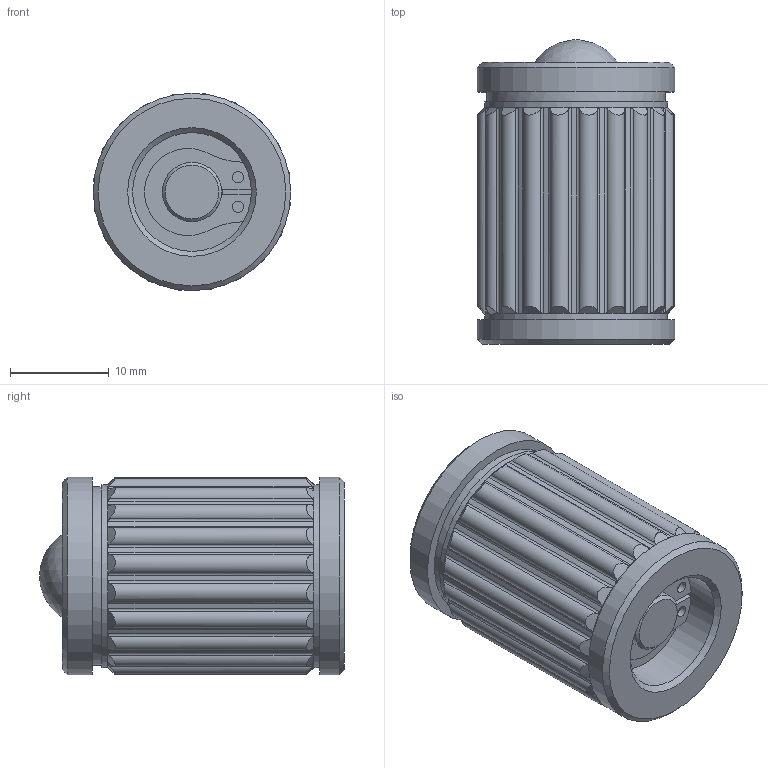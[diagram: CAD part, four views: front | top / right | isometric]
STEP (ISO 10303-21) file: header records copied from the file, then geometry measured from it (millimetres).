
FILE_DESCRIPTION(/* description */ (''),/* implementation_level */ '2;1');
FILE_NAME(/* name */ '\\EASAD\users\diepstratenf\Desktop\SMB18.stp',/* time_stamp */ '2016-04-18T08:03:44+02:00',/* author */ ('diepstratenf'),/* organization */ (''),/* preprocessor_version */ 'ST-DEVELOPER v15.2',/* originating_system */ 'Autodesk Inventor 2014',/* authorisation */ '');
FILE_SCHEMA (('AUTOMOTIVE_DESIGN { 1 0 10303 214 3 1 1 }'));
Length unit declared in the file: millimetre
Products named in the file (1): Part3
Bounding box: 19.95 x 30.8 x 19.95 mm (x, y, z)
Volume: 6563.4 mm3; surface area: 8952.6 mm2
Topology: 113 solids, 113 shells, 334 faces, 890 edges, 573 vertices
Faces by surface type: sphere 147, cylinder 104, cone 53, plane 26, torus 4
Full cylindrical faces by diameter (mm): 1.15 x2, 5.6 x1, 6 x2, 6.2 x1, 10.2 x1, 12 x1, 12.4 x1, 13.5 x2, 13.55 x1, 15.55 x1, 15.7 x1, 18 x1, 19.95 x2
Entity records: 7905 total; most frequent: CARTESIAN_POINT 2308, DIRECTION 1152, ORIENTED_EDGE 856, AXIS2_PLACEMENT_3D 521, EDGE_CURVE 416, EDGE_LOOP 372, STYLED_ITEM 335, ADVANCED_FACE 334
